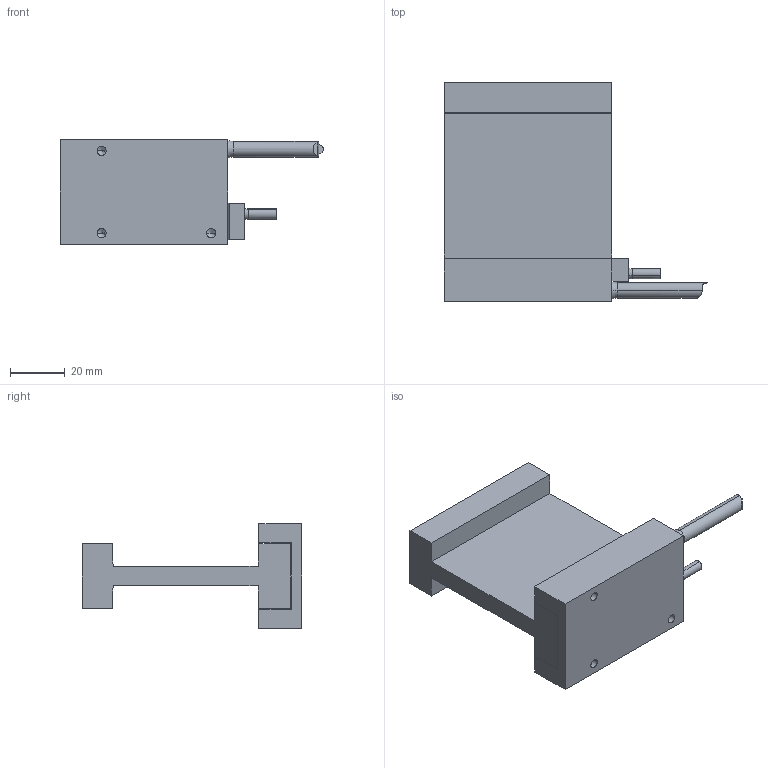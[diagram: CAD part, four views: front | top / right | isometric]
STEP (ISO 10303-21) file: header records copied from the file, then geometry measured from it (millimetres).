
FILE_DESCRIPTION (( 'STEP AP214' ), '1' );
FILE_NAME ('DX50F-C1.step', '2022-05-06T04:03:57', ( '' ), ( '' ), 'SwSTEP 2.0', 'SolidWorks 2020', '' );
FILE_SCHEMA (( 'AUTOMOTIVE_DESIGN' ));
Length unit declared in the file: millimetre
Products named in the file (1): DX50F-C1
Bounding box: 96 x 80 x 38.2 mm (x, y, z)
Volume: 76635.8 mm3; surface area: 27714.3 mm2
Topology: 7 solids, 7 shells, 158 faces, 364 edges, 221 vertices
Faces by surface type: plane 86, cylinder 42, cone 22, torus 8
Entity records: 6225 total; most frequent: CARTESIAN_POINT 825, DIRECTION 768, ORIENTED_EDGE 700, EDGE_CURVE 350, AXIS2_PLACEMENT_3D 272, VECTOR 224, LINE 224, VERTEX_POINT 221
